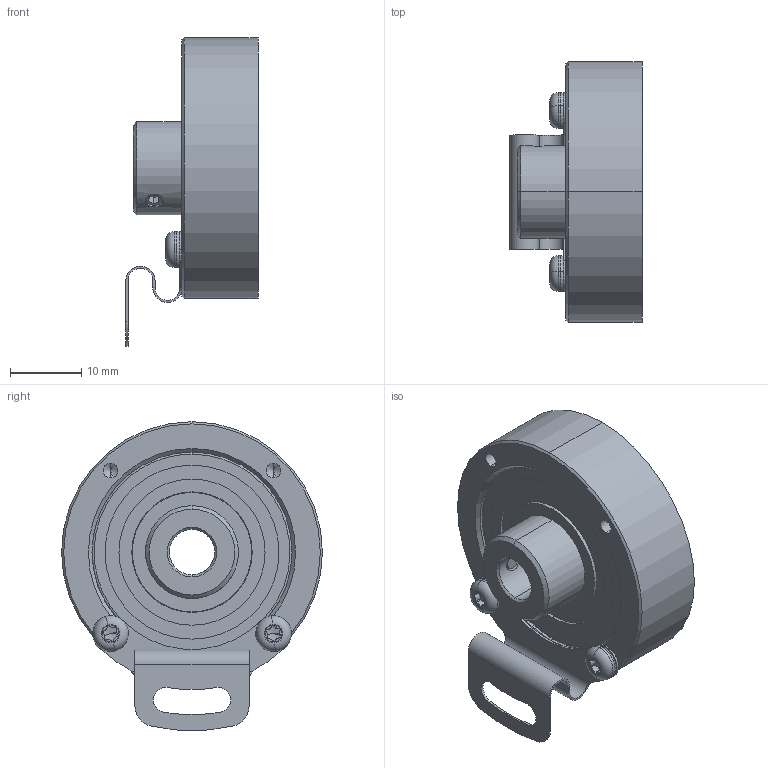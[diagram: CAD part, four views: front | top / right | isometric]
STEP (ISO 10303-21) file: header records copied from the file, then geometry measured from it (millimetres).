
FILE_DESCRIPTION (( 'STEP AP214' ), '1' );
FILE_NAME ('drawing-ucd-art0-q3a-n.STEP', '2017-01-12T10:56:38', ( '' ), ( '' ), 'SwSTEP 2.0', 'SolidWorks 2015', '' );
FILE_SCHEMA (( 'AUTOMOTIVE_DESIGN' ));
Length unit declared in the file: millimetre
Products named in the file (1): drawing-ucd-art0-q3a-n
Bounding box: 18.5 x 36.5 x 43.18 mm (x, y, z)
Volume: 9405.9 mm3; surface area: 11814.3 mm2
Topology: 20 solids, 20 shells, 369 faces, 911 edges, 557 vertices
Faces by surface type: cylinder 128, plane 85, cone 74, bspline 62, torus 20
Entity records: 13447 total; most frequent: CARTESIAN_POINT 4700, DIRECTION 1800, ORIENTED_EDGE 1738, EDGE_CURVE 869, AXIS2_PLACEMENT_3D 777, VERTEX_POINT 557, CIRCLE 469, EDGE_LOOP 426
